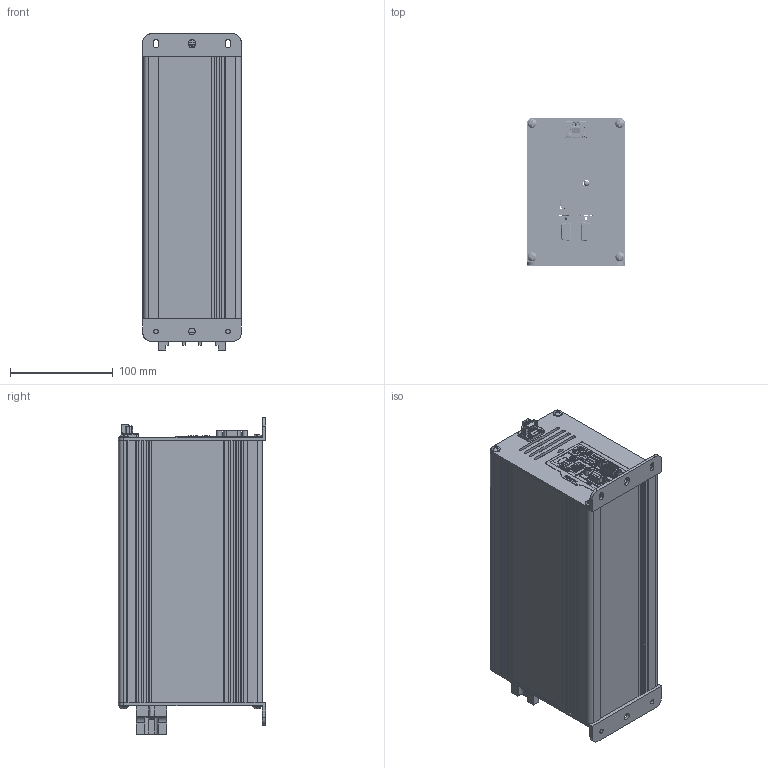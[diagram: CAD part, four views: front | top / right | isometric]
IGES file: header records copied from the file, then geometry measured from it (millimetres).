
Global section: file name: DV255COM; native system: Autodesk Inventor 2021; preprocessor: unknown; author: eunsol jang; date: 20220616.125533; units: inch
Bounding box: 95.5 x 142.98 x 307.5 mm (x, y, z)
Volume: 523043.7 mm3; surface area: 361742.8 mm2
Topology: 3 solids, 3 shells, 2633 faces, 8386 edges, 6017 vertices
Faces by surface type: bspline 2633
